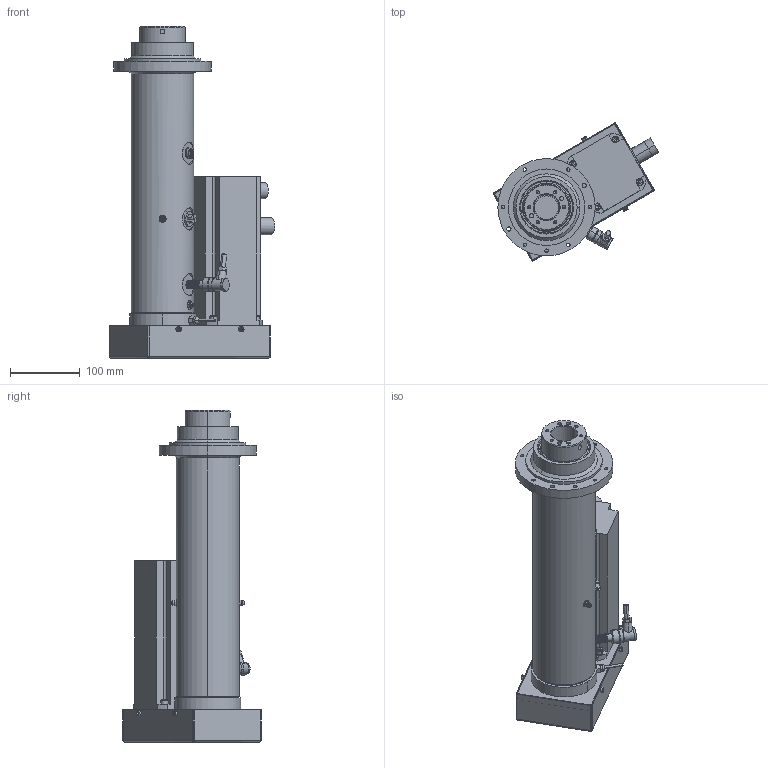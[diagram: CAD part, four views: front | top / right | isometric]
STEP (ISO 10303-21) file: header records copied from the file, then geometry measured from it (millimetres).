
FILE_DESCRIPTION (( 'STEP AP203' ), '1' );
FILE_NAME ('374005.STEP', '2018-11-08T06:55:36', ( '' ), ( '' ), 'SwSTEP 2.0', 'SolidWorks 2016', '' );
FILE_SCHEMA (( 'CONFIG_CONTROL_DESIGN' ));
Length unit declared in the file: millimetre
Products named in the file (1): 374005
Bounding box: 237.93 x 198.51 x 477.5 mm (x, y, z)
Volume: 3921479.7 mm3; surface area: 650017.9 mm2
Topology: 23 solids, 23 shells, 844 faces, 1993 edges, 1219 vertices
Faces by surface type: cylinder 360, plane 321, cone 131, torus 26, bspline 6
Entity records: 29011 total; most frequent: CARTESIAN_POINT 9451, DIRECTION 4230, ORIENTED_EDGE 3854, EDGE_CURVE 1927, AXIS2_PLACEMENT_3D 1636, VERTEX_POINT 1219, EDGE_LOOP 1042, LINE 958
